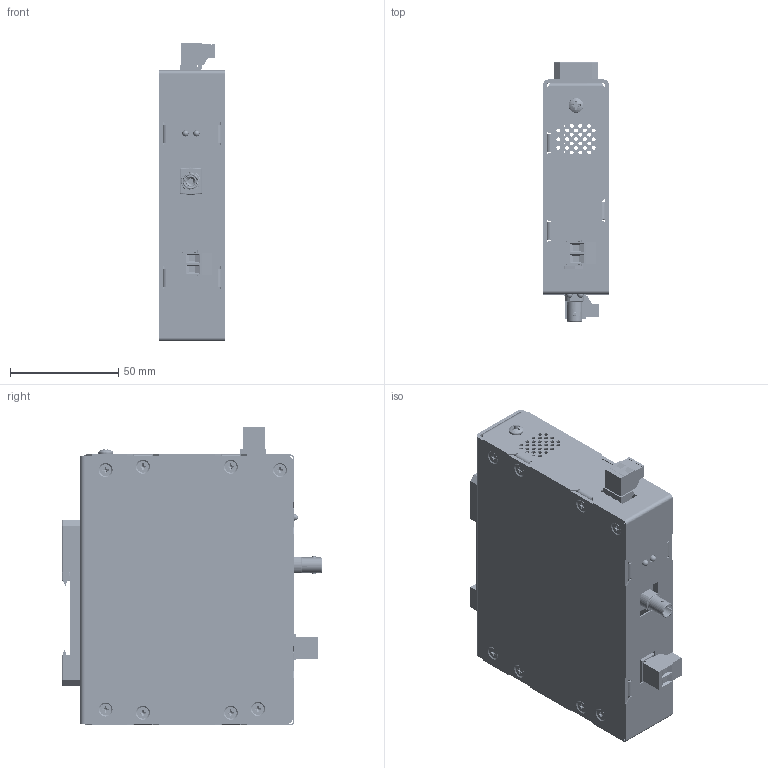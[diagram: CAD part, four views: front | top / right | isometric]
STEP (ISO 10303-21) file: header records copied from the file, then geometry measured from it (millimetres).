
FILE_DESCRIPTION(/* description */ ('STEP AP242','CAx-IF Rec.Pracs.---Representation and Presentation of Product Manufacturing Information (PMI)---4.0---2014-10-13','CAx-IF Rec.Pracs.---3D Tessellated Geometry---0.4---2014-09-14','2;1'),/* implementation_level */ '2;1');
FILE_NAME(/* name */ '6198476563b8cd2c17718b7c',/* time_stamp */ '2021-11-20T00:55:04+00:00',/* author */ (''),/* organization */ (''),/* preprocessor_version */ 'ST-DEVELOPER v18.1',/* originating_system */ ' ',/* authorisation */ ' ');
FILE_SCHEMA (('AP242_MANAGED_MODEL_BASED_3D_ENGINEERING_MIM_LF { 1 0 10303 442 1 1 4 }'));
Products named in the file (24): CD-384 - 1CD-XX-1 -Transmitter-DIN Rev D; 96640A334_Black-Oxide 18-8 Stainless Steel Phillips Flat Head Screws; PRODUCT_NAME_1; 96640A115_Black-Oxide 18-8 Stainless Steel Phillips Flat Head Screws; 91772A144_Passivated 18-8 Stainless Steel Pan Head Phillips Screw; H-105 Rear Housing <1>; 95185A130_Zinc-Plated Steel Press-Fit Nut for Sheet Metal; Part 1; H-128-T - SINGLE CONTACT CLOSURE DIN FRONT COVER Rev D <1>; DINM12-RC-Assy <1>; spring^DINM12-RC-Assy; Spring clip; DINM12-RC; PCB-1CD-XX-1 -Transmitter <1>; C-796638-2; HFBR-x41xTxZ; C-796634-2
Assembly tree (57 placements, depth 3):
  CD-384 - 1CD-XX-1 -Transmitter-DIN Rev D
    96640A334_Black-Oxide 18-8 Stainless Steel Phillips Flat Head Screws  x14
    PRODUCT_NAME_1  x4
    96640A115_Black-Oxide 18-8 Stainless Steel Phillips Flat Head Screws  x3
    91772A144_Passivated 18-8 Stainless Steel Pan Head Phillips Screw
    H-105 Rear Housing <1>
      95185A130_Zinc-Plated Steel Press-Fit Nut for Sheet Metal  x3
      Part 1
    H-128-T - SINGLE CONTACT CLOSURE DIN FRONT COVER Rev D <1>
      PRODUCT_NAME_1  x10
      Part 1
      PRODUCT_NAME_1
    DINM12-RC-Assy <1>
      spring^DINM12-RC-Assy
      Spring clip
      DINM12-RC
      spring^DINM12-RC-Assy
    PCB-1CD-XX-1 -Transmitter <1>
      Part 1
      C-796638-2  x2
      Part 1  x4
      HFBR-x41xTxZ
      C-796634-2  x2
      Part 1
Bounding box: 30.48 x 120.01 x 137.99 mm (x, y, z)
Volume: 84534.2 mm3; surface area: 116954.7 mm2
Topology: 52 solids, 53 shells, 3423 faces, 10077 edges, 6915 vertices
Faces by surface type: plane 2127, cylinder 917, cone 201, bspline 96, torus 57, sphere 25
Full cylindrical faces by diameter (mm): 0.46 x4, 0.5 x1, 0.9 x4, 1.5 x2, 1.905 x143, 2.156 x14, 2.5 x1, 2.647 x1, 2.845 x112, 2.9 x2, 3.251 x14, 3.505 x24, 3.556 x2, 4 x7, 4.089 x4, 4.191 x10, 4.216 x14, 4.5 x1, 4.724 x1, 4.75 x1, 4.763 x3, 4.826 x3, 4.889 x10, 5.41 x8, 5.563 x13, 5.588 x10, 5.8 x1, 6.401 x1, 6.858 x1, 7.1 x1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
Entity records: 71338 total; most frequent: CARTESIAN_POINT 20505, ORIENTED_EDGE 9658, DIRECTION 9430, EDGE_CURVE 4831, VERTEX_POINT 3356, AXIS2_PLACEMENT_3D 3200, LINE 3030, VECTOR 3030
